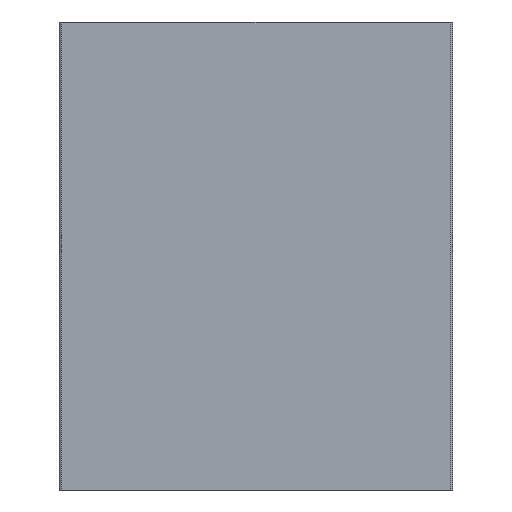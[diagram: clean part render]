
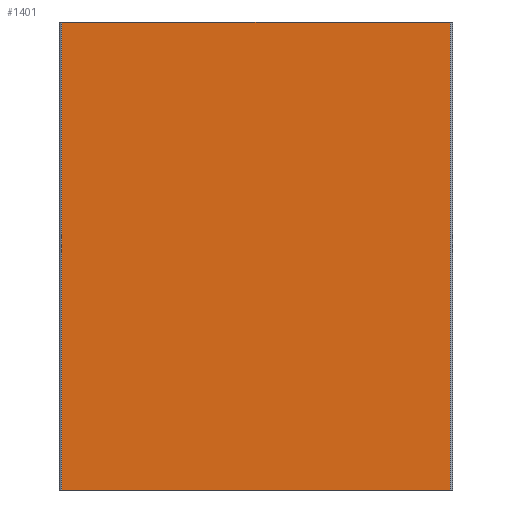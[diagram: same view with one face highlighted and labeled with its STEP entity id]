
A CAD part, front view. The second image highlights one B-rep face of the part: STEP entity #1401.
In plain terms, the highlighted planar face has unit normal (0, -1, 0).
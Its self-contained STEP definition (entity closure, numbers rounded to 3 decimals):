
#154 = DIRECTION ( 'NONE',  ( 1., 0., 0. ) ) ;
#317 = CARTESIAN_POINT ( 'NONE',  ( 126.06, 138.942, 100. ) ) ;
#370 = VERTEX_POINT ( 'NONE', #1326 ) ;
#401 = CARTESIAN_POINT ( 'NONE',  ( 126.06, 138.942, 100. ) ) ;
#490 = LINE ( 'NONE', #1511, #1330 ) ;
#528 = FACE_OUTER_BOUND ( 'NONE', #1438, .T. ) ;
#547 = EDGE_CURVE ( 'NONE', #1356, #1779, #490, .T. ) ;
#556 = DIRECTION ( 'NONE',  ( 0., 0., -1. ) ) ;
#557 = PLANE ( 'NONE',  #571 ) ;
#571 = AXIS2_PLACEMENT_3D ( 'NONE', #1781, #1392, #1070 ) ;
#921 = ORIENTED_EDGE ( 'NONE', *, *, #1325, .T. ) ;
#942 = ORIENTED_EDGE ( 'NONE', *, *, #1351, .F. ) ;
#977 = VECTOR ( 'NONE', #154, 1000. ) ;
#1026 = LINE ( 'NONE', #317, #977 ) ;
#1070 = DIRECTION ( 'NONE',  ( 0., 0., 1. ) ) ;
#1136 = CARTESIAN_POINT ( 'NONE',  ( 126.06, 138.942, 0. ) ) ;
#1155 = CARTESIAN_POINT ( 'NONE',  ( 126.06, 138.942, 0. ) ) ;
#1190 = LINE ( 'NONE', #1574, #1842 ) ;
#1325 = EDGE_CURVE ( 'NONE', #1903, #370, #1190, .T. ) ;
#1326 = CARTESIAN_POINT ( 'NONE',  ( 43.06, 138.942, 0. ) ) ;
#1330 = VECTOR ( 'NONE', #556, 1000. ) ;
#1348 = EDGE_CURVE ( 'NONE', #370, #1779, #1450, .T. ) ;
#1351 = EDGE_CURVE ( 'NONE', #1903, #1356, #1026, .T. ) ;
#1356 = VERTEX_POINT ( 'NONE', #401 ) ;
#1392 = DIRECTION ( 'NONE',  ( 0., 1., 0. ) ) ;
#1401 = ADVANCED_FACE ( 'NONE', ( #528 ), #557, .F. ) ;
#1426 = ORIENTED_EDGE ( 'NONE', *, *, #547, .F. ) ;
#1438 = EDGE_LOOP ( 'NONE', ( #1687, #1426, #942, #921 ) ) ;
#1450 = LINE ( 'NONE', #1136, #1755 ) ;
#1511 = CARTESIAN_POINT ( 'NONE',  ( 126.06, 138.942, 100. ) ) ;
#1574 = CARTESIAN_POINT ( 'NONE',  ( 43.06, 138.942, 100. ) ) ;
#1687 = ORIENTED_EDGE ( 'NONE', *, *, #1348, .T. ) ;
#1690 = DIRECTION ( 'NONE',  ( 0., 0., -1. ) ) ;
#1723 = CARTESIAN_POINT ( 'NONE',  ( 43.06, 138.942, 100. ) ) ;
#1755 = VECTOR ( 'NONE', #1966, 1000. ) ;
#1779 = VERTEX_POINT ( 'NONE', #1155 ) ;
#1781 = CARTESIAN_POINT ( 'NONE',  ( 126.06, 138.942, 100. ) ) ;
#1842 = VECTOR ( 'NONE', #1690, 1000. ) ;
#1903 = VERTEX_POINT ( 'NONE', #1723 ) ;
#1966 = DIRECTION ( 'NONE',  ( 1., 0., 0. ) ) ;
